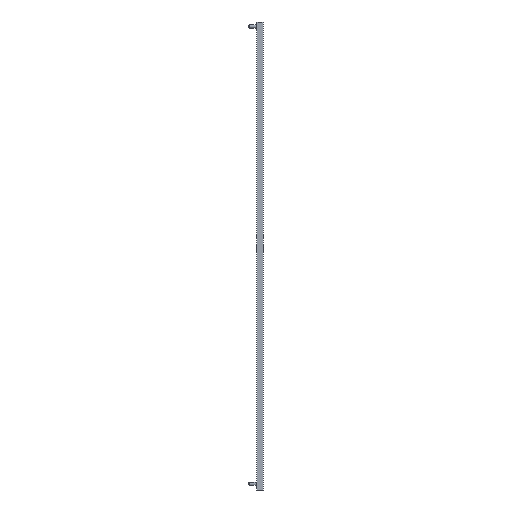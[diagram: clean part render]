
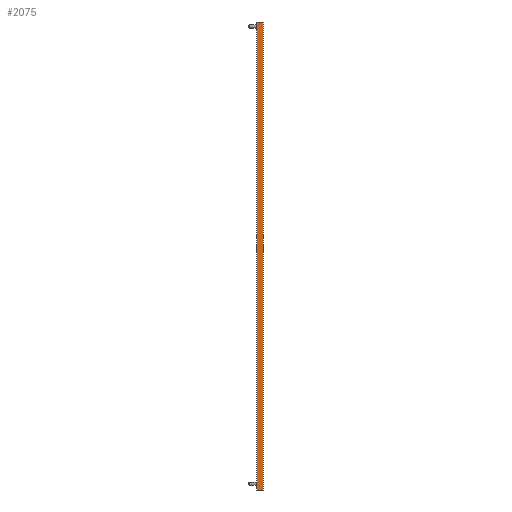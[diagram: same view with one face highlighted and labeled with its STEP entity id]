
A CAD part, left-side view. The second image highlights one B-rep face of the part: STEP entity #2075.
In plain terms, the highlighted planar face has unit normal (-1, 0, 0).
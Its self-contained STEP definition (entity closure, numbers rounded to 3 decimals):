
#2 = VECTOR ( 'NONE', #928, 1000. ) ;
#19 = CARTESIAN_POINT ( 'NONE',  ( -8., 9.3, 879. ) ) ;
#25 = LINE ( 'NONE', #76, #1630 ) ;
#33 = DIRECTION ( 'NONE',  ( -1., 0., 0. ) ) ;
#42 = DIRECTION ( 'NONE',  ( 0., -1., 0. ) ) ;
#76 = CARTESIAN_POINT ( 'NONE',  ( -8., 0., 879. ) ) ;
#172 = ORIENTED_EDGE ( 'NONE', *, *, #2404, .T. ) ;
#255 = EDGE_CURVE ( 'NONE', #393, #2893, #274, .T. ) ;
#257 = VECTOR ( 'NONE', #3203, 1000. ) ;
#274 = LINE ( 'NONE', #787, #2101 ) ;
#290 = DIRECTION ( 'NONE',  ( 0., 0., 1. ) ) ;
#360 = EDGE_LOOP ( 'NONE', ( #439, #1016, #2625, #1598, #3070, #645, #172, #3095 ) ) ;
#393 = VERTEX_POINT ( 'NONE', #3175 ) ;
#406 = VERTEX_POINT ( 'NONE', #1100 ) ;
#425 = CARTESIAN_POINT ( 'NONE',  ( -8., 0., 879. ) ) ;
#435 = EDGE_CURVE ( 'NONE', #712, #2150, #2947, .T. ) ;
#439 = ORIENTED_EDGE ( 'NONE', *, *, #1409, .F. ) ;
#550 = DIRECTION ( 'NONE',  ( 0., 1., 0. ) ) ;
#561 = EDGE_CURVE ( 'NONE', #2805, #1208, #1313, .T. ) ;
#645 = ORIENTED_EDGE ( 'NONE', *, *, #561, .T. ) ;
#712 = VERTEX_POINT ( 'NONE', #3157 ) ;
#734 = VECTOR ( 'NONE', #2846, 1000. ) ;
#787 = CARTESIAN_POINT ( 'NONE',  ( -8., 0., 0. ) ) ;
#792 = CARTESIAN_POINT ( 'NONE',  ( -8., 0., 879. ) ) ;
#876 = DIRECTION ( 'NONE',  ( 0., 1., 0. ) ) ;
#928 = DIRECTION ( 'NONE',  ( 0., -1., 0. ) ) ;
#1016 = ORIENTED_EDGE ( 'NONE', *, *, #1149, .T. ) ;
#1022 = CARTESIAN_POINT ( 'NONE',  ( -8., 3.2, 879. ) ) ;
#1080 = CARTESIAN_POINT ( 'NONE',  ( -8., 0., 0. ) ) ;
#1100 = CARTESIAN_POINT ( 'NONE',  ( -8., 9.3, 0. ) ) ;
#1149 = EDGE_CURVE ( 'NONE', #1713, #406, #1874, .T. ) ;
#1208 = VERTEX_POINT ( 'NONE', #1022 ) ;
#1313 = LINE ( 'NONE', #3058, #2002 ) ;
#1409 = EDGE_CURVE ( 'NONE', #1713, #712, #3079, .T. ) ;
#1485 = EDGE_CURVE ( 'NONE', #2893, #2805, #25, .T. ) ;
#1598 = ORIENTED_EDGE ( 'NONE', *, *, #255, .T. ) ;
#1630 = VECTOR ( 'NONE', #1851, 1000. ) ;
#1713 = VERTEX_POINT ( 'NONE', #2507 ) ;
#1720 = CARTESIAN_POINT ( 'NONE',  ( -8., 12.5, 879. ) ) ;
#1851 = DIRECTION ( 'NONE',  ( 0., 0., 1. ) ) ;
#1874 = LINE ( 'NONE', #1080, #734 ) ;
#2002 = VECTOR ( 'NONE', #550, 1000. ) ;
#2075 = ADVANCED_FACE ( 'NONE', ( #3007 ), #2986, .T. ) ;
#2101 = VECTOR ( 'NONE', #42, 1000. ) ;
#2150 = VERTEX_POINT ( 'NONE', #19 ) ;
#2171 = CARTESIAN_POINT ( 'NONE',  ( -8., 0., 0. ) ) ;
#2228 = AXIS2_PLACEMENT_3D ( 'NONE', #2241, #33, #3034 ) ;
#2241 = CARTESIAN_POINT ( 'NONE',  ( -8., 0., 879. ) ) ;
#2367 = EDGE_CURVE ( 'NONE', #406, #393, #3182, .T. ) ;
#2402 = CARTESIAN_POINT ( 'NONE',  ( -8., 0., 0. ) ) ;
#2404 = EDGE_CURVE ( 'NONE', #1208, #2150, #2695, .T. ) ;
#2507 = CARTESIAN_POINT ( 'NONE',  ( -8., 12.5, 0. ) ) ;
#2542 = VECTOR ( 'NONE', #876, 1000. ) ;
#2547 = CARTESIAN_POINT ( 'NONE',  ( -8., 12.5, 879. ) ) ;
#2625 = ORIENTED_EDGE ( 'NONE', *, *, #2367, .T. ) ;
#2695 = LINE ( 'NONE', #425, #2542 ) ;
#2742 = VECTOR ( 'NONE', #290, 1000. ) ;
#2805 = VERTEX_POINT ( 'NONE', #792 ) ;
#2846 = DIRECTION ( 'NONE',  ( 0., -1., 0. ) ) ;
#2893 = VERTEX_POINT ( 'NONE', #2171 ) ;
#2947 = LINE ( 'NONE', #1720, #257 ) ;
#2986 = PLANE ( 'NONE',  #2228 ) ;
#3007 = FACE_OUTER_BOUND ( 'NONE', #360, .T. ) ;
#3034 = DIRECTION ( 'NONE',  ( 0., 0., 1. ) ) ;
#3058 = CARTESIAN_POINT ( 'NONE',  ( -8., 0., 879. ) ) ;
#3070 = ORIENTED_EDGE ( 'NONE', *, *, #1485, .T. ) ;
#3079 = LINE ( 'NONE', #2547, #2742 ) ;
#3095 = ORIENTED_EDGE ( 'NONE', *, *, #435, .F. ) ;
#3157 = CARTESIAN_POINT ( 'NONE',  ( -8., 12.5, 879. ) ) ;
#3175 = CARTESIAN_POINT ( 'NONE',  ( -8., 3.2, 0. ) ) ;
#3182 = LINE ( 'NONE', #2402, #2 ) ;
#3203 = DIRECTION ( 'NONE',  ( 0., -1., 0. ) ) ;
